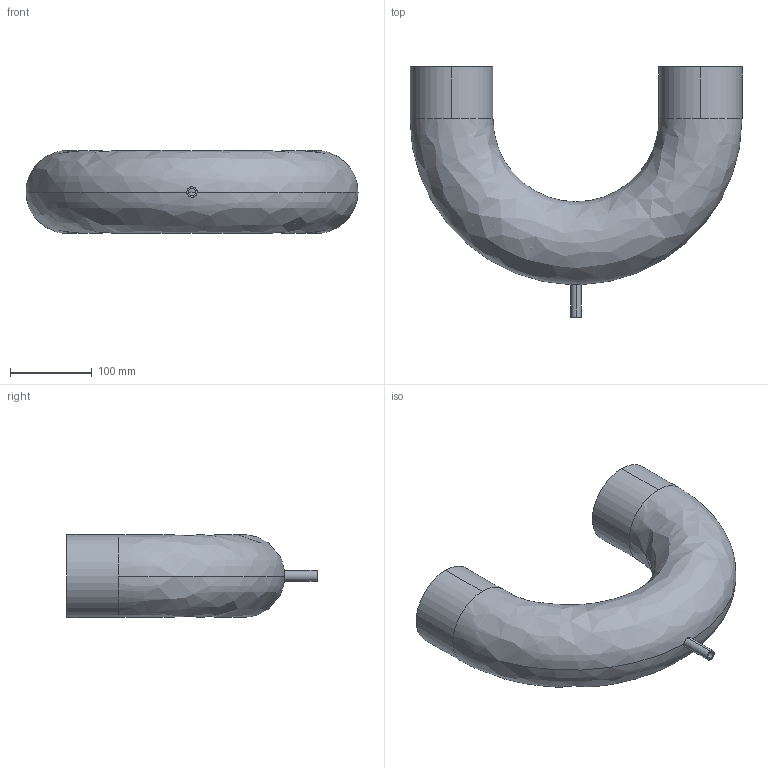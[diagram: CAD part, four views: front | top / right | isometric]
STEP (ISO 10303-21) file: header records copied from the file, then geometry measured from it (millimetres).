
FILE_DESCRIPTION (( 'STEP AP214' ), '1' );
FILE_NAME ('TE2UBWWW6L4.0x.5-...STEP', '2016-05-25T05:30:35', ( 'eran' ), ( '' ), 'SwSTEP 2.0', 'SolidWorks 2016', '' );
FILE_SCHEMA (( 'AUTOMOTIVE_DESIGN' ));
Length unit declared in the file: millimetre
Products named in the file (1): TE2UBWWW6L4.0x.5-..
Bounding box: 406.4 x 306.4 x 101.6 mm (x, y, z)
Volume: 401646.7 mm3; surface area: 382693.1 mm2
Topology: 1 solids, 1 shells, 19 faces, 54 edges, 36 vertices
Faces by surface type: cylinder 12, bspline 4, plane 3
Entity records: 864 total; most frequent: CARTESIAN_POINT 322, DIRECTION 112, ORIENTED_EDGE 108, EDGE_CURVE 54, AXIS2_PLACEMENT_3D 50, VERTEX_POINT 36, CIRCLE 34, EDGE_LOOP 22
